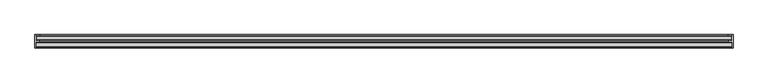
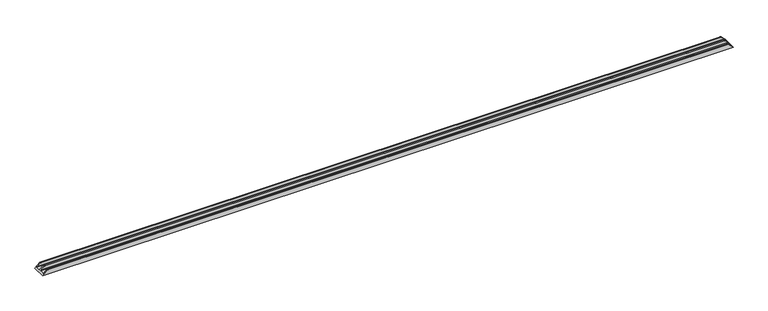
"""IFC4 building model written with IfcOpenShell, lengths in millimetres: proxy geometry, Weiku - Montante - Caixilho duplo 02.3.02.409 : Weiku - Montante - Caixilho duplo 02.3.02.409."""

from ifc_helpers import new_model, si_unit, frame, origin, place, context, project, spatial, ellipse_curve, source, transform, mapped, element, save
from ifc_brep_helpers import plane_surface, cylinder_surface, advanced_brep


def generic_models_2c84d4b1(model_context):
    return source(origin(), model_context, "Body", "AdvancedBrep", [
        advanced_brep(
        [(-4038.2, 9.8, 18.2), (-4000.5, 9.8, 55.9), (4000.5, 9.8, 55.9), (4038.2, 9.8, 18.2), (-4040.7000079, 63.85, 15.6999921), (-4040.7000079, 15.05, 15.6999921), (4040.7000079, 15.05, 15.6999921), (4040.7000079, 63.85, 15.6999921), (-4000.5000055, 69.1, 55.8999945), (-4032.5700642, 69.1, 23.8299358), (4032.5700642, 69.1, 23.8299358), (4000.5000055, 69.1, 55.8999945), (-4000.0000055, 86.65, 56.3999945), (-4000.0000055, 69.6, 56.3999945), (4000.0000055, 69.6, 56.3999945), (4000.0000055, 86.65, 56.3999945), (-4032.6236827, 87.15, 23.7763173), (-4000.5000055, 87.15, 55.8999945), (4000.5000055, 87.15, 55.8999945), (4032.6236827, 87.15, 23.7763173), (-4056.4, 156.2000166, 0.0), (4056.4, 156.2000166, 0.0), (4056.4, 0.0, 0.0), (-4056.4, 0.0, 0.0), (4000.5, 0.0, 55.9), (-4000.5, 0.0, 55.9), (-4000.0, 9.3, 56.4), (-4000.0, 0.5, 56.4), (4000.0, 0.5, 56.4), (4000.0, 9.3, 56.4), (-4038.2, 15.05, 18.2), (-4038.2, 63.85, 18.2), (-4038.2000178, 92.3500166, 18.1999822), (-4040.7000079, 92.3500166, 15.6999921), (-4040.7000079, 141.1500166, 15.6999921), (-4038.2, 141.1500166, 18.2), (-4038.2, 146.4000166, 18.2), (-4000.5, 146.4000166, 55.9), (-4000.0, 146.9000166, 56.4), (-4000.0, 155.7000166, 56.4), (-4000.5, 156.2000166, 55.9), (4000.5, 156.2000166, 55.9), (4000.0, 155.7000166, 56.4), (4000.0, 146.9000166, 56.4), (4000.5, 146.4000166, 55.9), (4038.2, 146.4000166, 18.2), (4038.2, 141.1500166, 18.2), (4040.7000079, 141.1500166, 15.6999921), (4040.7000079, 92.3500166, 15.6999921), (4038.2000178, 92.3500166, 18.1999822), (4038.2, 63.85, 18.2), (4038.2, 15.05, 18.2)],
        [
            (0, 1),
            (1, 2),
            (2, 3),
            (3, 0),
            (4, 5),
            (5, 6),
            (6, 7),
            (7, 4),
            (8, 9),
            (9, 10),
            (10, 11),
            (11, 8),
            (12, 13),
            (13, 14),
            (14, 15),
            (15, 12),
            (16, 17),
            (17, 18),
            (18, 19),
            (19, 16),
            (20, 21),
            (21, 22),
            (22, 23),
            (23, 20),
            (22, 24),
            (24, 25),
            (25, 23),
            (26, 27),
            (27, 28),
            (28, 29),
            (29, 26),
            (0, 30),
            (30, 5),
            (4, 31),
            (31, 9),
            (8, 13, ellipse_curve(frame((-4000.5000055, 69.6, 55.8999945), z_axis=(-0.7071067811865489, 0.0, 0.7071067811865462), x_axis=(-0.707106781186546, 0.0, -0.7071067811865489)), 0.7071068, 0.5)),
            (12, 17, ellipse_curve(frame((-4000.5000055, 86.65, 55.8999945), z_axis=(-0.7071067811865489, 0.0, 0.7071067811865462), x_axis=(-0.707106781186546, 0.0, -0.7071067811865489)), 0.7071068, 0.5)),
            (16, 32),
            (32, 33),
            (33, 34),
            (34, 35),
            (35, 36),
            (36, 37),
            (37, 38, ellipse_curve(frame((-4000.5, 146.9000166, 55.9), z_axis=(-0.7071067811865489, 0.0, 0.7071067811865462), x_axis=(-0.707106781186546, 0.0, -0.7071067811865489)), 0.7071068, 0.5)),
            (38, 39),
            (39, 40, ellipse_curve(frame((-4000.5, 155.7000166, 55.9), z_axis=(-0.7071067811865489, 0.0, 0.7071067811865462), x_axis=(-0.707106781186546, 0.0, -0.7071067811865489)), 0.7071068, 0.5)),
            (40, 20),
            (25, 27, ellipse_curve(frame((-4000.5, 0.5, 55.9), z_axis=(-0.7071067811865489, 0.0, 0.7071067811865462), x_axis=(-0.707106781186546, 0.0, -0.7071067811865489)), 0.7071068, 0.5)),
            (26, 1, ellipse_curve(frame((-4000.5, 9.3, 55.9), z_axis=(-0.7071067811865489, 0.0, 0.7071067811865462), x_axis=(-0.707106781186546, 0.0, -0.7071067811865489)), 0.7071068, 0.5)),
            (2, 29, ellipse_curve(frame((4000.5, 9.3, 55.9), z_axis=(0.7071067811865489, 0.0, 0.7071067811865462), x_axis=(-0.707106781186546, 0.0, 0.7071067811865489)), 0.7071068, 0.5)),
            (28, 24, ellipse_curve(frame((4000.5, 0.5, 55.9), z_axis=(0.7071067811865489, 0.0, 0.7071067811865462), x_axis=(-0.707106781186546, 0.0, 0.7071067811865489)), 0.7071068, 0.5)),
            (21, 41),
            (41, 42, ellipse_curve(frame((4000.5, 155.7000166, 55.9), z_axis=(0.7071067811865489, 0.0, 0.7071067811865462), x_axis=(-0.707106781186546, 0.0, 0.7071067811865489)), 0.7071068, 0.5)),
            (42, 43),
            (43, 44, ellipse_curve(frame((4000.5, 146.9000166, 55.9), z_axis=(0.7071067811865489, 0.0, 0.7071067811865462), x_axis=(-0.707106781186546, 0.0, 0.7071067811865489)), 0.7071068, 0.5)),
            (44, 45),
            (45, 46),
            (46, 47),
            (47, 48),
            (48, 49),
            (49, 19),
            (18, 15, ellipse_curve(frame((4000.5000055, 86.65, 55.8999945), z_axis=(0.7071067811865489, 0.0, 0.7071067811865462), x_axis=(-0.707106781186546, 0.0, 0.7071067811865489)), 0.7071068, 0.5)),
            (14, 11, ellipse_curve(frame((4000.5000055, 69.6, 55.8999945), z_axis=(0.7071067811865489, 0.0, 0.7071067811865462), x_axis=(-0.707106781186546, 0.0, 0.7071067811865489)), 0.7071068, 0.5)),
            (10, 50),
            (50, 7),
            (6, 51),
            (51, 3),
            (51, 30),
            (50, 31),
            (49, 32),
            (48, 33),
            (47, 34),
            (46, 35),
            (45, 36),
            (44, 37),
            (38, 43),
            (42, 39),
            (41, 40),
        ],
        [
            plane_surface(frame((-4056.4, 9.8, 55.9), z_axis=(0.0, 1.0, 0.0), x_axis=(1.0, 0.0, 0.0))),
            plane_surface(frame((-4056.4, 15.05, 15.6999921), z_axis=(0.0, 0.0, 1.0), x_axis=(1.0, 0.0, 0.0))),
            plane_surface(frame((-4056.4, 69.1, 23.8299358), z_axis=(0.0, -1.0, 0.0), x_axis=(1.0, 0.0, 0.0))),
            plane_surface(frame((-4056.4, 69.6, 56.3999945), z_axis=(0.0, 0.0, 1.0), x_axis=(1.0, 0.0, 0.0))),
            plane_surface(frame((-4056.4, 87.15, 55.8999945), z_axis=(0.0, 1.0, 0.0), x_axis=(1.0, 0.0, 0.0))),
            plane_surface(frame((-4056.4, 156.2000166, 0.0), z_axis=(0.0, 0.0, -1.0), x_axis=(1.0, 0.0, 0.0))),
            plane_surface(frame((-4056.4, 0.0, 0.0), z_axis=(0.0, -1.0, 0.0), x_axis=(1.0, 0.0, 0.0))),
            plane_surface(frame((-4056.4, 0.5, 56.4), z_axis=(0.0, 0.0, 1.0), x_axis=(1.0, 0.0, 0.0))),
            plane_surface(frame((-4056.4, 0.0, 0.0), z_axis=(-0.7071067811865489, 0.0, 0.7071067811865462), x_axis=(0.0, 1.0, 0.0))),
            plane_surface(frame((3996.4, 0.0, 60.0), z_axis=(0.7071067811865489, 0.0, 0.7071067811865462), x_axis=(0.0, 1.0, 0.0))),
            plane_surface(frame((-4056.4, 9.8, 18.2), z_axis=(0.0, 0.0, 1.0), x_axis=(1.0, 0.0, 0.0))),
            plane_surface(frame((-4056.4, 15.05, 18.2), z_axis=(0.0, 1.0, 0.0), x_axis=(1.0, 0.0, 0.0))),
            plane_surface(frame((-4056.4, 63.85, 15.6999921), z_axis=(0.0, -1.0, 0.0), x_axis=(1.0, 0.0, 0.0))),
            plane_surface(frame((-4056.4, 63.85, 18.2), z_axis=(0.0, -0.7313537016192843, 0.6819983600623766), x_axis=(1.0, 0.0, 0.0))),
            cylinder_surface(frame((-4056.4, 86.65, 55.8999945), z_axis=(-1.0, 0.0, 0.0), x_axis=(0.0, 1.0, 0.0)), 0.5),
            cylinder_surface(frame((-4056.4, 0.5, 55.9), z_axis=(-1.0, 0.0, 0.0), x_axis=(0.0, 1.0, 0.0)), 0.5),
            plane_surface(frame((-4056.4, 87.15, 23.7763173), z_axis=(0.0, 0.7313537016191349, 0.6819983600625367), x_axis=(1.0, 0.0, 0.0))),
            plane_surface(frame((-4056.4, 92.3500166, 18.1999822), z_axis=(0.0, 1.0, 0.0), x_axis=(1.0, 0.0, 0.0))),
            plane_surface(frame((-4056.4, 92.3500166, 15.6999921), z_axis=(0.0, 0.0, 1.0), x_axis=(1.0, 0.0, 0.0))),
            plane_surface(frame((-4056.4, 141.1500166, 15.6999921), z_axis=(0.0, -1.0, 0.0), x_axis=(1.0, 0.0, 0.0))),
            plane_surface(frame((-4056.4, 141.1500166, 18.2), z_axis=(0.0, 0.0, 1.0), x_axis=(1.0, 0.0, 0.0))),
            plane_surface(frame((-4056.4, 146.4000166, 18.2), z_axis=(0.0, -1.0, 0.0), x_axis=(1.0, 0.0, 0.0))),
            plane_surface(frame((-4056.4, 146.9000166, 56.4), z_axis=(0.0, 0.0, 1.0), x_axis=(1.0, 0.0, 0.0))),
            cylinder_surface(frame((-4056.4, 155.7000166, 55.9), z_axis=(-1.0, 0.0, 0.0), x_axis=(0.0, -1.0, 0.0)), 0.5),
            plane_surface(frame((-4056.4, 156.2000166, 55.9), z_axis=(0.0, 1.0, 0.0), x_axis=(1.0, 0.0, 0.0))),
            cylinder_surface(frame((-4056.4, 9.3, 55.9), z_axis=(-1.0, 0.0, 0.0), x_axis=(0.0, 1.0, 0.0)), 0.5),
            cylinder_surface(frame((-4056.4, 69.6, 55.8999945), z_axis=(-1.0, 0.0, 0.0), x_axis=(0.0, 1.0, 0.0)), 0.5),
            cylinder_surface(frame((-4056.4, 146.9000166, 55.9), z_axis=(-1.0, 0.0, 0.0), x_axis=(0.0, 1.0, 0.0)), 0.5),
        ],
        [
            (0, [[1, 2, 3, 4]]),
            (1, [[5, 6, 7, 8]]),
            (2, [[9, 10, 11, 12]]),
            (3, [[13, 14, 15, 16]]),
            (4, [[17, 18, 19, 20]]),
            (5, [[21, 22, 23, 24]]),
            (6, [[-23, 25, 26, 27]]),
            (7, [[28, 29, 30, 31]]),
            (8, [[-1, 32, 33, -5, 34, 35, -9, 36, -13, 37, -17, 38, 39, 40, 41, 42, 43, 44, 45, 46, 47, -24, -27, 48, -28, 49]]),
            (9, [[-3, 50, -30, 51, -25, -22, 52, 53, 54, 55, 56, 57, 58, 59, 60, 61, -19, 62, -15, 63, -11, 64, 65, -7, 66, 67]]),
            (10, [[-32, -4, -67, 68]]),
            (11, [[-33, -68, -66, -6]]),
            (12, [[-34, -8, -65, 69]]),
            (13, [[-35, -69, -64, -10]]),
            (14, [[-37, -16, -62, -18]]),
            (15, [[-48, -26, -51, -29]]),
            (16, [[-38, -20, -61, 70]]),
            (17, [[-39, -70, -60, 71]]),
            (18, [[-40, -71, -59, 72]]),
            (19, [[-41, -72, -58, 73]]),
            (20, [[-42, -73, -57, 74]]),
            (21, [[-43, -74, -56, 75]]),
            (22, [[-45, 76, -54, 77]]),
            (23, [[-46, -77, -53, 78]]),
            (24, [[-21, -47, -78, -52]]),
            (25, [[-49, -31, -50, -2]]),
            (26, [[-36, -12, -63, -14]]),
            (27, [[-44, -75, -55, -76]]),
        ],
    ),
    ])


if __name__ == "__main__":
    model = new_model("IFC4")
    model_context = context("Model", 3, world=origin())
    ifc_project = project(units=[si_unit("LENGTHUNIT", "METRE", prefix="MILLI")], contexts=[model_context])
    site = spatial("IfcSite", under=ifc_project)
    building = spatial("IfcBuilding", under=site)
    placement = place(None, origin())
    generic_models_shape = generic_models_2c84d4b1(model_context)
    element("IfcBuildingElementProxy", 1, Name="Weiku - Montante - Caixilho duplo 02.3.02.409 : Weiku - Montante - Caixilho duplo 02.3.02.409", ObjectType="Weiku - Montante - Caixilho duplo 02.3.02.409 : Weiku - Montante - Caixilho duplo 02.3.02.409", at=placement, inside=building, context=model_context, shape_type="MappedRepresentation", body=[
        mapped(generic_models_shape, transform((0.0, 0.0, 0.0), x_axis=(1.0, 0.0, 0.0), y_axis=(0.0, 1.0, 0.0), z_axis=(0.0, 0.0, 1.0))),
    ])
    save(model, "model.ifc")
